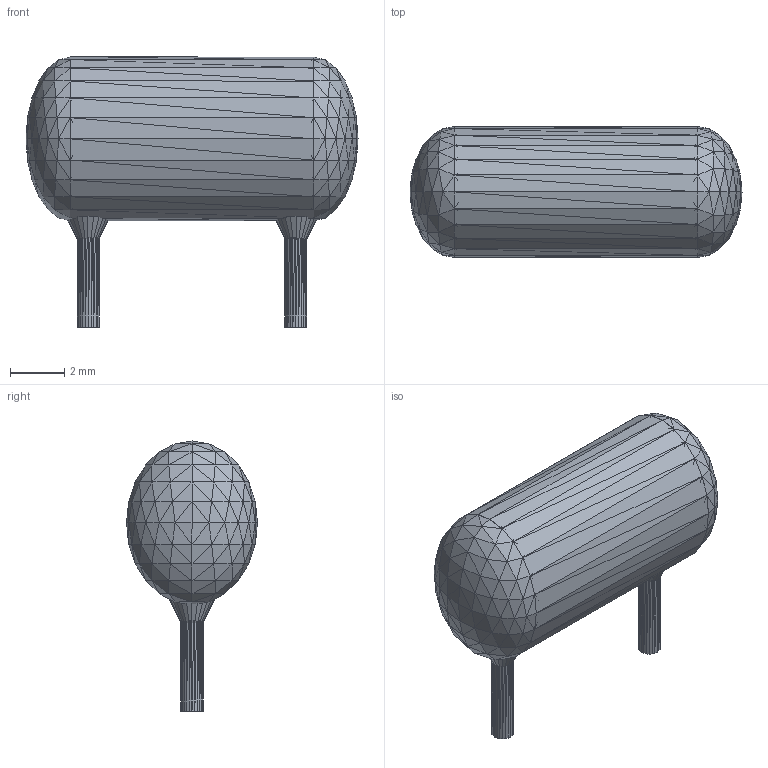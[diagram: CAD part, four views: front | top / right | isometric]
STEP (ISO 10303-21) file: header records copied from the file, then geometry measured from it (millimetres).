
FILE_DESCRIPTION(('HOOPS Exchange Step'),'2;1');
FILE_NAME('***.stp');
FILE_SCHEMA( ('AP242_MANAGED_MODEL_BASED_3D_ENGINEERING_MIM_LF {1 0 10303 442 1 1 4 }') );
Length unit declared in the file: inch
Products named in the file (8): CAPORGXSMNF_2; CAPORGXSMNF_3; CAPORGXSMNF_4; CAPORGXSMNF_5; CAPORGXSMNF_6; CAPORGXSMNF_7; CAPORGXSMNF_8; CAPORGXSMNF
Assembly tree (7 placements, depth 2):
  CAPORGXSMNF
    CAPORGXSMNF_2
    CAPORGXSMNF_3
    CAPORGXSMNF_4
    CAPORGXSMNF_5
    CAPORGXSMNF_6
    CAPORGXSMNF_7
    CAPORGXSMNF_8
Bounding box: 12.19 x 4.81 x 9.92 mm (x, y, z)
Surface area: 744.6 mm2 (no closed solid volume)
Topology: 0 solids, 1920 shells, 1920 faces, 1440 edges, 494 vertices
Faces by surface type: plane 1920
Entity records: 29644 total; most frequent: ORIENTED_EDGE 5760, DIRECTION 5312, CARTESIAN_POINT 3870, AXIS2_PLACEMENT_3D 1936, PLANE 1920, EDGE_LOOP 1920, FACE_BOUND 1920, ADVANCED_FACE 1920
